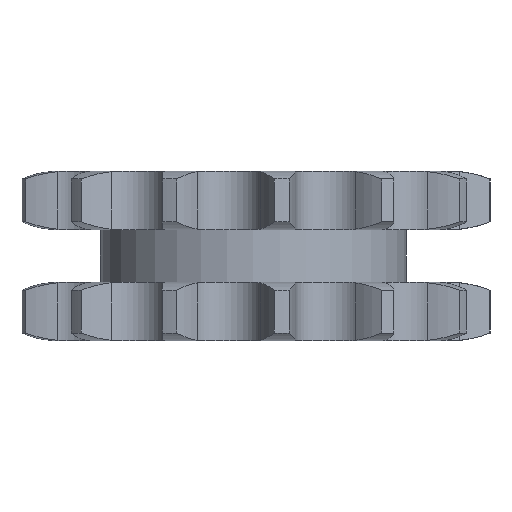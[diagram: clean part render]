
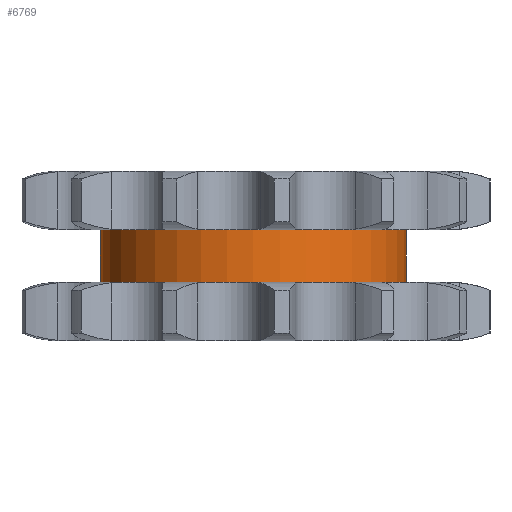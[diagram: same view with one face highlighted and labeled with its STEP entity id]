
A CAD part, left-side view. The second image highlights one B-rep face of the part: STEP entity #6769.
In plain terms, the highlighted cylindrical face has radius 13.9 mm (diameter 27.801 mm), a partial arc.
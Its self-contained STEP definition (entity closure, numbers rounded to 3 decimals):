
#1816=DIRECTION('',(0.,0.,-1.));
#1817=VECTOR('',#1816,4.8);
#1818=CARTESIAN_POINT('',(0.,13.9,2.4));
#1819=LINE('',#1818,#1817);
#1823=CARTESIAN_POINT('',(0.,0.,2.4));
#1824=DIRECTION('',(0.,0.,1.));
#1825=DIRECTION('',(0.,1.,0.));
#1826=AXIS2_PLACEMENT_3D('',#1823,#1824,#1825);
#1831=DIRECTION('',(0.,0.,-1.));
#1832=VECTOR('',#1831,4.8);
#1833=CARTESIAN_POINT('',(0.,-13.9,2.4));
#1834=LINE('',#1833,#1832);
#1838=CARTESIAN_POINT('',(0.,0.,-2.4));
#1839=DIRECTION('',(0.,0.,1.));
#1840=DIRECTION('',(0.,1.,0.));
#1841=AXIS2_PLACEMENT_3D('',#1838,#1839,#1840);
#4665=CARTESIAN_POINT('',(0.,13.9,2.4));
#4666=CARTESIAN_POINT('',(0.,13.9,-2.4));
#4667=VERTEX_POINT('',#4665);
#4668=VERTEX_POINT('',#4666);
#4669=CARTESIAN_POINT('',(0.,-13.9,2.4));
#4670=CARTESIAN_POINT('',(0.,-13.9,-2.4));
#4671=VERTEX_POINT('',#4669);
#4672=VERTEX_POINT('',#4670);
#6757=CARTESIAN_POINT('',(0.,0.,2.64));
#6758=DIRECTION('',(0.,0.,-1.));
#6759=DIRECTION('',(0.,-1.,0.));
#6760=AXIS2_PLACEMENT_3D('',#6757,#6758,#6759);
#6761=CYLINDRICAL_SURFACE('',#6760,13.9);
#6762=ORIENTED_EDGE('',*,*,#6747,.F.);
#6763=ORIENTED_EDGE('',*,*,#6737,.T.);
#6764=ORIENTED_EDGE('',*,*,#6751,.T.);
#6766=ORIENTED_EDGE('',*,*,#6765,.F.);
#6767=EDGE_LOOP('',(#6762,#6763,#6764,#6766));
#6768=FACE_OUTER_BOUND('',#6767,.F.);
#6769=ADVANCED_FACE('',(#6768),#6761,.T.);
#1827=CIRCLE('',#1826,13.9);
#1842=CIRCLE('',#1841,13.9);
#6737=EDGE_CURVE('',#4667,#4671,#1827,.T.);
#6747=EDGE_CURVE('',#4667,#4668,#1819,.T.);
#6751=EDGE_CURVE('',#4671,#4672,#1834,.T.);
#6765=EDGE_CURVE('',#4668,#4672,#1842,.T.);
